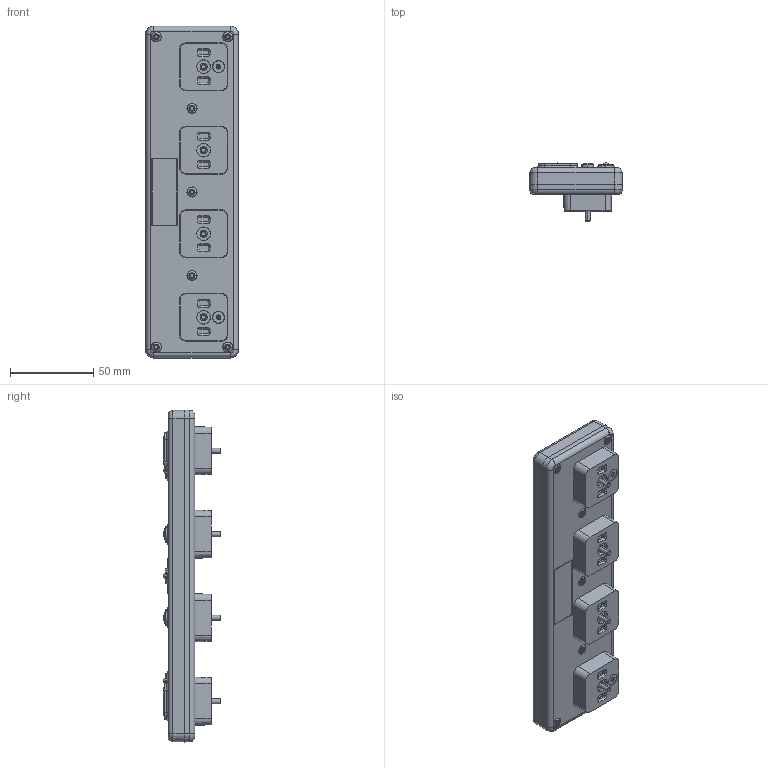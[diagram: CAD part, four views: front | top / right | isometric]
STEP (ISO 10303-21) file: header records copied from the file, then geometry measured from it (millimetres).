
FILE_DESCRIPTION (( 'STEP AP203' ), '1' );
FILE_NAME ('S-1303.STEP', '2018-05-28T09:40:01', ( '' ), ( '' ), 'SwSTEP 2.0', 'SolidWorks 2018', '' );
FILE_SCHEMA (( 'CONFIG_CONTROL_DESIGN' ));
Length unit declared in the file: millimetre
Products named in the file (1): S-1303
Bounding box: 56 x 34.9 x 199.9 mm (x, y, z)
Volume: 200158.1 mm3; surface area: 47770.7 mm2
Topology: 1 solids, 31 shells, 1834 faces, 4669 edges, 3007 vertices
Faces by surface type: plane 739, cone 449, cylinder 293, bspline 219, torus 108, sphere 26
Entity records: 68494 total; most frequent: CARTESIAN_POINT 25133, ORIENTED_EDGE 9306, DIRECTION 8537, EDGE_CURVE 4653, AXIS2_PLACEMENT_3D 3154, VERTEX_POINT 3007, VECTOR 2229, LINE 2229
